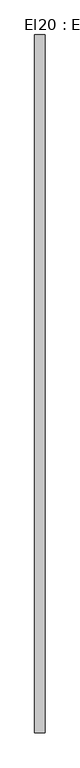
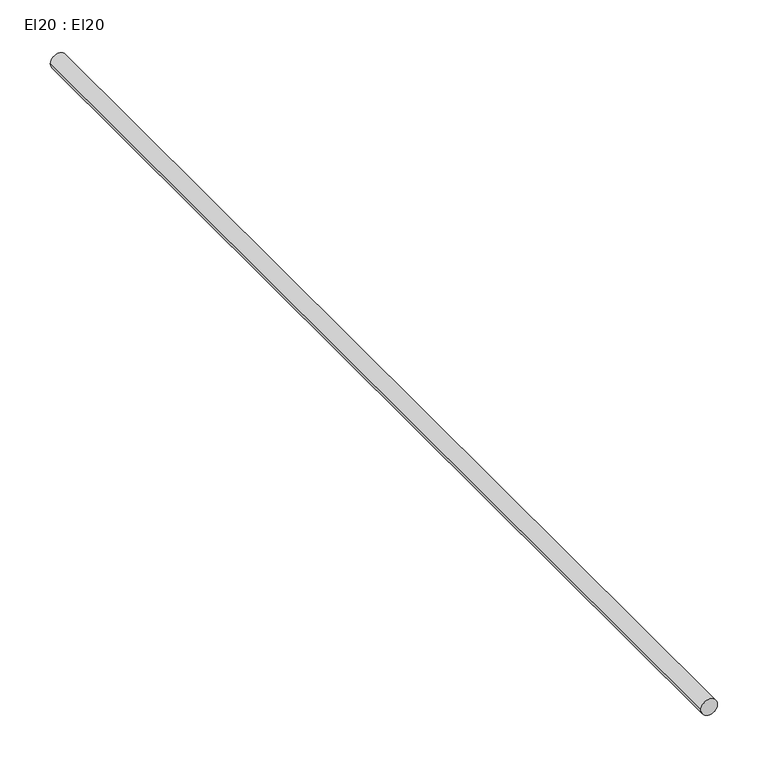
"""IFC4 building model written with IfcOpenShell, lengths in millimetres: cable carrier segment geometry, El20 : El20."""

from ifc_helpers import new_model, si_unit, point, frame, frame_2d, origin, place, context, project, spatial, circle_curve, trimmed, segment, composite_curve, outline, extrude, source, transform, mapped, element, save


def el20_el20_ff115c89(model_context):
    return source(origin(), model_context, "Body", "SweptSolid", [
        extrude(outline(composite_curve([segment(trimmed(circle_curve(frame_2d((300.0, 1300.0)), 9.5), [point((300.0, 1290.5))], [point((300.0, 1309.5))], False, "CARTESIAN"), True, "CONTINUOUS"), segment(trimmed(circle_curve(frame_2d((300.0, 1300.0)), 9.5), [point((300.0, 1309.5))], [point((300.0, 1290.5))], False, "CARTESIAN"), True, "CONTINUOUS")], self_intersect=False)), frame((0.0, 16482.809, 0.0), z_axis=(0.0, 1.0, 0.0), x_axis=(0.0, 0.0, 1.0)), (0.0, 0.0, 1.0), 1290.98),
    ])


if __name__ == "__main__":
    model = new_model("IFC4")
    model_context = context("Model", 3, world=origin())
    ifc_project = project(units=[si_unit("LENGTHUNIT", "METRE", prefix="MILLI")], contexts=[model_context])
    site = spatial("IfcSite", under=ifc_project)
    building = spatial("IfcBuilding", under=site)
    placement = place(None, origin())
    el20_el20_shape = el20_el20_ff115c89(model_context)
    element("IfcCableCarrierSegment", 1, ObjectType="El20 : El20", at=placement, inside=building, context=model_context, shape_type="MappedRepresentation", body=[
        mapped(el20_el20_shape, transform((0.0, 0.0, 0.0), x_axis=(1.0, 0.0, 0.0), y_axis=(0.0, 1.0, 0.0), z_axis=(0.0, 0.0, 1.0))),
    ])
    save(model, "model.ifc")
